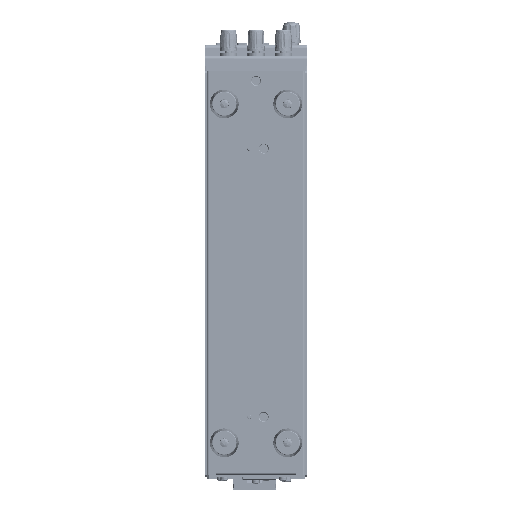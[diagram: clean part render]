
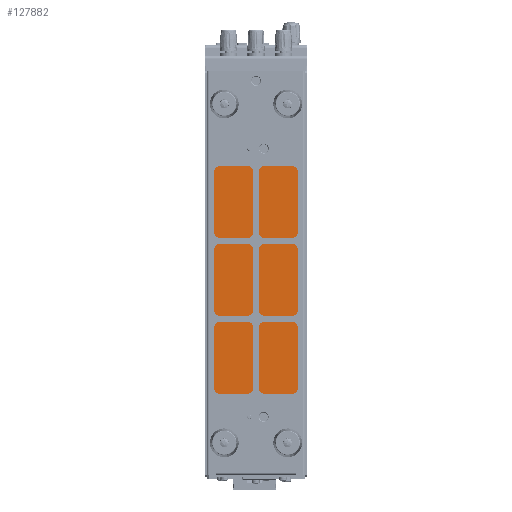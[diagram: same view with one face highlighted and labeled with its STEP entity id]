
A CAD part, front view. The second image highlights one B-rep face of the part: STEP entity #127882.
In plain terms, the highlighted planar face has unit normal (0, -1, 0).
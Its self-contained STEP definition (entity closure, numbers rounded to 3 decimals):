
#127803=DIRECTION('',(0.,0.,1.));
#127804=VECTOR('',#127803,166.);
#127805=CARTESIAN_POINT('',(31.25,0.,-228.));
#127806=LINE('',#127805,#127804);
#127811=DIRECTION('',(-1.,0.,0.));
#127812=VECTOR('',#127811,62.5);
#127813=CARTESIAN_POINT('',(31.25,0.,-62.));
#127814=LINE('',#127813,#127812);
#127819=DIRECTION('',(0.,0.,-1.));
#127820=VECTOR('',#127819,166.);
#127821=CARTESIAN_POINT('',(-31.25,0.,-62.));
#127822=LINE('',#127821,#127820);
#127827=DIRECTION('',(1.,0.,0.));
#127828=VECTOR('',#127827,62.5);
#127829=CARTESIAN_POINT('',(-31.25,0.,-228.));
#127830=LINE('',#127829,#127828);
#127851=CARTESIAN_POINT('',(31.25,0.,-228.));
#127852=CARTESIAN_POINT('',(31.25,0.,-62.));
#127853=VERTEX_POINT('',#127851);
#127854=VERTEX_POINT('',#127852);
#127855=CARTESIAN_POINT('',(-31.25,0.,-228.));
#127856=VERTEX_POINT('',#127855);
#127857=CARTESIAN_POINT('',(-31.25,0.,-62.));
#127858=VERTEX_POINT('',#127857);
#127867=CARTESIAN_POINT('',(0.,0.,0.));
#127868=DIRECTION('',(0.,1.,0.));
#127869=DIRECTION('',(1.,0.,0.));
#127870=AXIS2_PLACEMENT_3D('',#127867,#127868,#127869);
#127871=PLANE('',#127870);
#127873=ORIENTED_EDGE('',*,*,#127872,.F.);
#127875=ORIENTED_EDGE('',*,*,#127874,.F.);
#127877=ORIENTED_EDGE('',*,*,#127876,.F.);
#127879=ORIENTED_EDGE('',*,*,#127878,.F.);
#127880=EDGE_LOOP('',(#127873,#127875,#127877,#127879));
#127881=FACE_OUTER_BOUND('',#127880,.F.);
#127882=ADVANCED_FACE('',(#127881),#127871,.F.);
#127872=EDGE_CURVE('',#127853,#127854,#127806,.T.);
#127874=EDGE_CURVE('',#127856,#127853,#127830,.T.);
#127876=EDGE_CURVE('',#127858,#127856,#127822,.T.);
#127878=EDGE_CURVE('',#127854,#127858,#127814,.T.);
